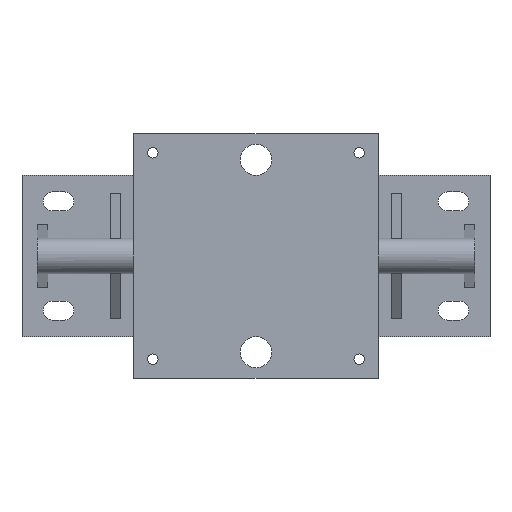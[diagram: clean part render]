
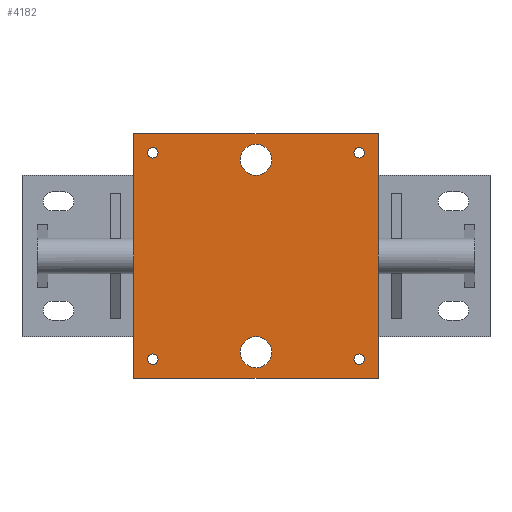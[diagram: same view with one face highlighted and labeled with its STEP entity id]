
A CAD part, front view. The second image highlights one B-rep face of the part: STEP entity #4182.
In plain terms, the highlighted planar face has unit normal (0, -1, 0).
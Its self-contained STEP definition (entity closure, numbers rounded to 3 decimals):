
#172=FACE_BOUND('',#690,.T.);
#173=FACE_BOUND('',#691,.T.);
#174=FACE_BOUND('',#692,.T.);
#175=FACE_BOUND('',#693,.T.);
#176=FACE_BOUND('',#694,.T.);
#177=FACE_BOUND('',#695,.T.);
#224=CIRCLE('',#4486,6.35);
#225=CIRCLE('',#4488,6.35);
#226=CIRCLE('',#4490,6.35);
#227=CIRCLE('',#4492,19.05);
#228=CIRCLE('',#4494,19.05);
#229=CIRCLE('',#4496,6.35);
#437=FACE_OUTER_BOUND('',#689,.T.);
#689=EDGE_LOOP('',(#2918,#2919,#2920,#2921));
#690=EDGE_LOOP('',(#2922));
#691=EDGE_LOOP('',(#2923));
#692=EDGE_LOOP('',(#2924));
#693=EDGE_LOOP('',(#2925));
#694=EDGE_LOOP('',(#2926));
#695=EDGE_LOOP('',(#2927));
#988=LINE('',#6364,#1394);
#991=LINE('',#6369,#1397);
#993=LINE('',#6373,#1399);
#995=LINE('',#6376,#1401);
#1394=VECTOR('',#5050,10.);
#1397=VECTOR('',#5055,10.);
#1399=VECTOR('',#5059,10.);
#1401=VECTOR('',#5063,10.);
#1794=VERTEX_POINT('',#6338);
#1795=VERTEX_POINT('',#6342);
#1796=VERTEX_POINT('',#6346);
#1797=VERTEX_POINT('',#6350);
#1798=VERTEX_POINT('',#6354);
#1799=VERTEX_POINT('',#6358);
#1800=VERTEX_POINT('',#6362);
#1801=VERTEX_POINT('',#6363);
#1802=VERTEX_POINT('',#6368);
#1803=VERTEX_POINT('',#6372);
#2213=EDGE_CURVE('',#1794,#1794,#224,.T.);
#2215=EDGE_CURVE('',#1795,#1795,#225,.T.);
#2217=EDGE_CURVE('',#1796,#1796,#226,.T.);
#2219=EDGE_CURVE('',#1797,#1797,#227,.T.);
#2221=EDGE_CURVE('',#1798,#1798,#228,.T.);
#2223=EDGE_CURVE('',#1799,#1799,#229,.T.);
#2224=EDGE_CURVE('',#1800,#1801,#988,.T.);
#2227=EDGE_CURVE('',#1801,#1802,#991,.T.);
#2229=EDGE_CURVE('',#1802,#1803,#993,.T.);
#2231=EDGE_CURVE('',#1803,#1800,#995,.T.);
#2918=ORIENTED_EDGE('',*,*,#2231,.T.);
#2919=ORIENTED_EDGE('',*,*,#2224,.T.);
#2920=ORIENTED_EDGE('',*,*,#2227,.T.);
#2921=ORIENTED_EDGE('',*,*,#2229,.T.);
#2922=ORIENTED_EDGE('',*,*,#2223,.F.);
#2923=ORIENTED_EDGE('',*,*,#2221,.F.);
#2924=ORIENTED_EDGE('',*,*,#2219,.F.);
#2925=ORIENTED_EDGE('',*,*,#2217,.F.);
#2926=ORIENTED_EDGE('',*,*,#2215,.F.);
#2927=ORIENTED_EDGE('',*,*,#2213,.F.);
#4026=PLANE('',#4501);
#4182=ADVANCED_FACE('',(#437,#172,#173,#174,#175,#176,#177),#4026,.F.);
#4486=AXIS2_PLACEMENT_3D('',#6340,#5021,#5022);
#4488=AXIS2_PLACEMENT_3D('',#6344,#5026,#5027);
#4490=AXIS2_PLACEMENT_3D('',#6348,#5031,#5032);
#4492=AXIS2_PLACEMENT_3D('',#6352,#5036,#5037);
#4494=AXIS2_PLACEMENT_3D('',#6356,#5041,#5042);
#4496=AXIS2_PLACEMENT_3D('',#6360,#5046,#5047);
#4501=AXIS2_PLACEMENT_3D('',#6377,#5064,#5065);
#5021=DIRECTION('center_axis',(0.,-1.,0.));
#5022=DIRECTION('ref_axis',(1.,0.,0.));
#5026=DIRECTION('center_axis',(0.,-1.,0.));
#5027=DIRECTION('ref_axis',(1.,0.,0.));
#5031=DIRECTION('center_axis',(0.,-1.,0.));
#5032=DIRECTION('ref_axis',(1.,0.,0.));
#5036=DIRECTION('center_axis',(0.,-1.,0.));
#5037=DIRECTION('ref_axis',(1.,0.,0.));
#5041=DIRECTION('center_axis',(0.,-1.,0.));
#5042=DIRECTION('ref_axis',(1.,0.,0.));
#5046=DIRECTION('center_axis',(0.,-1.,0.));
#5047=DIRECTION('ref_axis',(1.,0.,0.));
#5050=DIRECTION('',(0.,0.,1.));
#5055=DIRECTION('',(-1.,0.,0.));
#5059=DIRECTION('',(0.,0.,-1.));
#5063=DIRECTION('',(1.,0.,0.));
#5064=DIRECTION('center_axis',(0.,1.,0.));
#5065=DIRECTION('ref_axis',(1.,0.,0.));
#6338=CARTESIAN_POINT('',(-132.35,0.,126.));
#6340=CARTESIAN_POINT('Origin',(-126.,0.,126.));
#6342=CARTESIAN_POINT('',(119.65,0.,126.));
#6344=CARTESIAN_POINT('Origin',(126.,0.,126.));
#6346=CARTESIAN_POINT('',(119.65,0.,-126.));
#6348=CARTESIAN_POINT('Origin',(126.,0.,-126.));
#6350=CARTESIAN_POINT('',(-19.05,0.,-117.5));
#6352=CARTESIAN_POINT('Origin',(0.,0.,-117.5));
#6354=CARTESIAN_POINT('',(-19.05,0.,117.5));
#6356=CARTESIAN_POINT('Origin',(0.,0.,117.5));
#6358=CARTESIAN_POINT('',(-132.35,0.,-126.));
#6360=CARTESIAN_POINT('Origin',(-126.,0.,-126.));
#6362=CARTESIAN_POINT('',(149.2,0.,-149.2));
#6363=CARTESIAN_POINT('',(149.2,0.,149.2));
#6364=CARTESIAN_POINT('',(149.2,0.,-149.2));
#6368=CARTESIAN_POINT('',(-149.2,0.,149.2));
#6369=CARTESIAN_POINT('',(149.2,0.,149.2));
#6372=CARTESIAN_POINT('',(-149.2,0.,-149.2));
#6373=CARTESIAN_POINT('',(-149.2,0.,149.2));
#6376=CARTESIAN_POINT('',(-149.2,0.,-149.2));
#6377=CARTESIAN_POINT('Origin',(0.,0.,0.));
